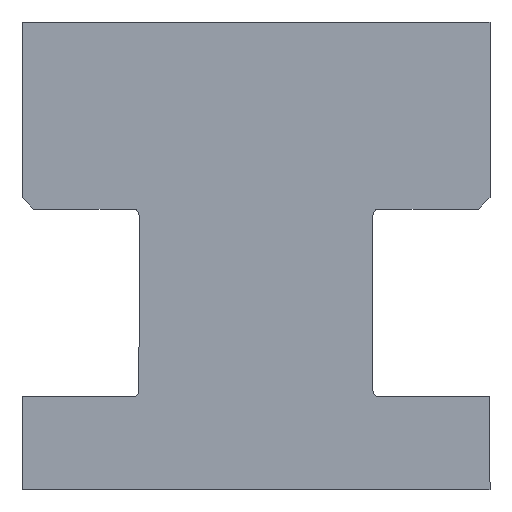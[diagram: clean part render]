
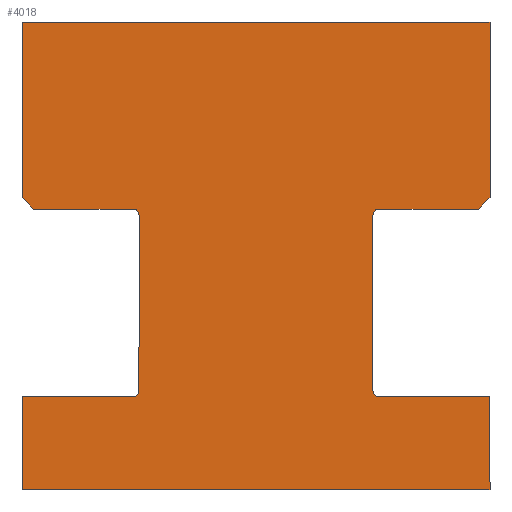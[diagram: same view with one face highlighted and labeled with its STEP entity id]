
A CAD part, front view. The second image highlights one B-rep face of the part: STEP entity #4018.
In plain terms, the highlighted planar face has unit normal (0, -1, 0).
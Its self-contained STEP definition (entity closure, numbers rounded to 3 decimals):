
#141 = ORIENTED_EDGE ( 'NONE', *, *, #4727, .T. ) ;
#193 = VERTEX_POINT ( 'NONE', #1388 ) ;
#210 = EDGE_CURVE ( 'NONE', #5938, #4809, #1956, .T. ) ;
#221 = DIRECTION ( 'NONE',  ( 0., 0., -1. ) ) ;
#238 = CARTESIAN_POINT ( 'NONE',  ( 10., -50., 20. ) ) ;
#277 = CARTESIAN_POINT ( 'NONE',  ( -9.5, -50., 12. ) ) ;
#431 = DIRECTION ( 'NONE',  ( 0.707, 0., -0.707 ) ) ;
#462 = EDGE_LOOP ( 'NONE', ( #5608, #7422, #1519, #1436, #141, #4499, #4317, #1874, #1297, #1888, #3387, #3003, #1084, #3736, #3169, #4102, #4210, #5923 ) ) ;
#531 = EDGE_CURVE ( 'NONE', #4574, #2586, #2336, .T. ) ;
#597 = DIRECTION ( 'NONE',  ( 1., 0., 0. ) ) ;
#672 = LINE ( 'NONE', #5896, #895 ) ;
#683 = EDGE_CURVE ( 'NONE', #3060, #1354, #4502, .T. ) ;
#699 = DIRECTION ( 'NONE',  ( 0., 0., 1. ) ) ;
#765 = CIRCLE ( 'NONE', #3121, 0.25 ) ;
#845 = PLANE ( 'NONE',  #7132 ) ;
#895 = VECTOR ( 'NONE', #597, 1000. ) ;
#1043 = CARTESIAN_POINT ( 'NONE',  ( -10., -50., 4. ) ) ;
#1084 = ORIENTED_EDGE ( 'NONE', *, *, #1252, .T. ) ;
#1130 = CARTESIAN_POINT ( 'NONE',  ( -5.25, -50., 11.75 ) ) ;
#1238 = VECTOR ( 'NONE', #1919, 1000. ) ;
#1252 = EDGE_CURVE ( 'NONE', #6293, #4286, #4004, .T. ) ;
#1272 = AXIS2_PLACEMENT_3D ( 'NONE', #1130, #1819, #7067 ) ;
#1297 = ORIENTED_EDGE ( 'NONE', *, *, #5521, .T. ) ;
#1320 = LINE ( 'NONE', #3659, #4335 ) ;
#1354 = VERTEX_POINT ( 'NONE', #4656 ) ;
#1388 = CARTESIAN_POINT ( 'NONE',  ( 5.25, -50., 12. ) ) ;
#1396 = VECTOR ( 'NONE', #221, 1000. ) ;
#1406 = CARTESIAN_POINT ( 'NONE',  ( 10., -50., 4. ) ) ;
#1436 = ORIENTED_EDGE ( 'NONE', *, *, #210, .F. ) ;
#1494 = CARTESIAN_POINT ( 'NONE',  ( -10., -50., 20. ) ) ;
#1519 = ORIENTED_EDGE ( 'NONE', *, *, #6709, .F. ) ;
#1532 = CARTESIAN_POINT ( 'NONE',  ( 10., -50., 12.5 ) ) ;
#1559 = VERTEX_POINT ( 'NONE', #6520 ) ;
#1570 = DIRECTION ( 'NONE',  ( 0.707, 0., 0.707 ) ) ;
#1819 = DIRECTION ( 'NONE',  ( 0., 1., 0. ) ) ;
#1853 = VECTOR ( 'NONE', #2199, 1000. ) ;
#1872 = VECTOR ( 'NONE', #2776, 1000. ) ;
#1874 = ORIENTED_EDGE ( 'NONE', *, *, #6411, .T. ) ;
#1888 = ORIENTED_EDGE ( 'NONE', *, *, #531, .T. ) ;
#1919 = DIRECTION ( 'NONE',  ( 1., 0., 0. ) ) ;
#1956 = LINE ( 'NONE', #1494, #1238 ) ;
#1968 = VERTEX_POINT ( 'NONE', #4089 ) ;
#2199 = DIRECTION ( 'NONE',  ( 0., 0., 1. ) ) ;
#2209 = CARTESIAN_POINT ( 'NONE',  ( -10., -50., 0. ) ) ;
#2253 = LINE ( 'NONE', #1532, #6391 ) ;
#2335 = EDGE_CURVE ( 'NONE', #193, #1559, #5406, .T. ) ;
#2336 = CIRCLE ( 'NONE', #6627, 0.25 ) ;
#2429 = EDGE_CURVE ( 'NONE', #2586, #7275, #5034, .T. ) ;
#2551 = DIRECTION ( 'NONE',  ( 0., 0., -1. ) ) ;
#2586 = VERTEX_POINT ( 'NONE', #3761 ) ;
#2623 = EDGE_CURVE ( 'NONE', #6632, #3060, #7256, .T. ) ;
#2684 = CARTESIAN_POINT ( 'NONE',  ( 5.25, -50., 4.25 ) ) ;
#2695 = VERTEX_POINT ( 'NONE', #5817 ) ;
#2776 = DIRECTION ( 'NONE',  ( 0., 0., -1. ) ) ;
#2956 = LINE ( 'NONE', #5224, #6028 ) ;
#2962 = LINE ( 'NONE', #7603, #6273 ) ;
#2980 = VECTOR ( 'NONE', #431, 1000. ) ;
#3003 = ORIENTED_EDGE ( 'NONE', *, *, #6505, .T. ) ;
#3060 = VERTEX_POINT ( 'NONE', #3163 ) ;
#3089 = DIRECTION ( 'NONE',  ( -1., 0., 0. ) ) ;
#3121 = AXIS2_PLACEMENT_3D ( 'NONE', #6610, #5416, #2551 ) ;
#3143 = CARTESIAN_POINT ( 'NONE',  ( -5.25, -50., 4.25 ) ) ;
#3160 = DIRECTION ( 'NONE',  ( 1., 0., 0. ) ) ;
#3163 = CARTESIAN_POINT ( 'NONE',  ( 5., -50., 4.25 ) ) ;
#3169 = ORIENTED_EDGE ( 'NONE', *, *, #6485, .T. ) ;
#3198 = DIRECTION ( 'NONE',  ( 0., 1., 0. ) ) ;
#3354 = VERTEX_POINT ( 'NONE', #3950 ) ;
#3387 = ORIENTED_EDGE ( 'NONE', *, *, #2429, .T. ) ;
#3659 = CARTESIAN_POINT ( 'NONE',  ( 10., -50., 4. ) ) ;
#3736 = ORIENTED_EDGE ( 'NONE', *, *, #5199, .F. ) ;
#3761 = CARTESIAN_POINT ( 'NONE',  ( -5.25, -50., 4. ) ) ;
#3767 = CARTESIAN_POINT ( 'NONE',  ( -10., -50., 20. ) ) ;
#3791 = CARTESIAN_POINT ( 'NONE',  ( 10., -50., 0. ) ) ;
#3950 = CARTESIAN_POINT ( 'NONE',  ( -5.25, -50., 12. ) ) ;
#4004 = LINE ( 'NONE', #7466, #6989 ) ;
#4018 = ADVANCED_FACE ( 'NONE', ( #7215 ), #845, .F. ) ;
#4089 = CARTESIAN_POINT ( 'NONE',  ( -5., -50., 11.75 ) ) ;
#4102 = ORIENTED_EDGE ( 'NONE', *, *, #2623, .T. ) ;
#4204 = DIRECTION ( 'NONE',  ( 0., 1., 0. ) ) ;
#4210 = ORIENTED_EDGE ( 'NONE', *, *, #683, .T. ) ;
#4286 = VERTEX_POINT ( 'NONE', #3791 ) ;
#4315 = AXIS2_PLACEMENT_3D ( 'NONE', #2684, #5064, #4449 ) ;
#4317 = ORIENTED_EDGE ( 'NONE', *, *, #4726, .T. ) ;
#4319 = EDGE_CURVE ( 'NONE', #1559, #2695, #2253, .T. ) ;
#4335 = VECTOR ( 'NONE', #3089, 1000. ) ;
#4434 = CARTESIAN_POINT ( 'NONE',  ( -10., -50., 20. ) ) ;
#4449 = DIRECTION ( 'NONE',  ( 0., 0., 1. ) ) ;
#4498 = LINE ( 'NONE', #6836, #1872 ) ;
#4499 = ORIENTED_EDGE ( 'NONE', *, *, #6846, .T. ) ;
#4502 = LINE ( 'NONE', #6874, #1853 ) ;
#4528 = CARTESIAN_POINT ( 'NONE',  ( 5.25, -50., 4. ) ) ;
#4572 = DIRECTION ( 'NONE',  ( -1., 0., 0. ) ) ;
#4574 = VERTEX_POINT ( 'NONE', #5800 ) ;
#4656 = CARTESIAN_POINT ( 'NONE',  ( 5., -50., 11.75 ) ) ;
#4726 = EDGE_CURVE ( 'NONE', #7365, #3354, #672, .T. ) ;
#4727 = EDGE_CURVE ( 'NONE', #5938, #5864, #2956, .T. ) ;
#4809 = VERTEX_POINT ( 'NONE', #6399 ) ;
#4887 = CARTESIAN_POINT ( 'NONE',  ( -10., -50., 20. ) ) ;
#4921 = CARTESIAN_POINT ( 'NONE',  ( 10., -50., 12. ) ) ;
#5034 = LINE ( 'NONE', #1043, #7122 ) ;
#5064 = DIRECTION ( 'NONE',  ( 0., 1., 0. ) ) ;
#5199 = EDGE_CURVE ( 'NONE', #6532, #4286, #2962, .T. ) ;
#5224 = CARTESIAN_POINT ( 'NONE',  ( -10., -50., 20. ) ) ;
#5406 = LINE ( 'NONE', #4921, #7616 ) ;
#5416 = DIRECTION ( 'NONE',  ( 0., 1., 0. ) ) ;
#5521 = EDGE_CURVE ( 'NONE', #1968, #4574, #4498, .T. ) ;
#5557 = VECTOR ( 'NONE', #5962, 1000. ) ;
#5604 = DIRECTION ( 'NONE',  ( -1., 0., 0. ) ) ;
#5608 = ORIENTED_EDGE ( 'NONE', *, *, #2335, .T. ) ;
#5626 = CARTESIAN_POINT ( 'NONE',  ( -10., -50., 4. ) ) ;
#5681 = CIRCLE ( 'NONE', #1272, 0.25 ) ;
#5742 = CARTESIAN_POINT ( 'NONE',  ( -9.5, -50., 12. ) ) ;
#5800 = CARTESIAN_POINT ( 'NONE',  ( -5., -50., 4.25 ) ) ;
#5817 = CARTESIAN_POINT ( 'NONE',  ( 10., -50., 12.5 ) ) ;
#5828 = DIRECTION ( 'NONE',  ( 0., 0., -1. ) ) ;
#5863 = DIRECTION ( 'NONE',  ( 0., 0., -1. ) ) ;
#5864 = VERTEX_POINT ( 'NONE', #6662 ) ;
#5896 = CARTESIAN_POINT ( 'NONE',  ( -10., -50., 12. ) ) ;
#5923 = ORIENTED_EDGE ( 'NONE', *, *, #6451, .T. ) ;
#5938 = VERTEX_POINT ( 'NONE', #4434 ) ;
#5962 = DIRECTION ( 'NONE',  ( 0., 0., -1. ) ) ;
#6023 = LINE ( 'NONE', #4887, #1396 ) ;
#6028 = VECTOR ( 'NONE', #5828, 1000. ) ;
#6273 = VECTOR ( 'NONE', #5863, 1000. ) ;
#6293 = VERTEX_POINT ( 'NONE', #2209 ) ;
#6336 = DIRECTION ( 'NONE',  ( 1., 0., 0. ) ) ;
#6391 = VECTOR ( 'NONE', #1570, 1000. ) ;
#6399 = CARTESIAN_POINT ( 'NONE',  ( 10., -50., 20. ) ) ;
#6411 = EDGE_CURVE ( 'NONE', #3354, #1968, #5681, .T. ) ;
#6451 = EDGE_CURVE ( 'NONE', #1354, #193, #765, .T. ) ;
#6485 = EDGE_CURVE ( 'NONE', #6532, #6632, #1320, .T. ) ;
#6505 = EDGE_CURVE ( 'NONE', #7275, #6293, #6023, .T. ) ;
#6520 = CARTESIAN_POINT ( 'NONE',  ( 9.5, -50., 12. ) ) ;
#6532 = VERTEX_POINT ( 'NONE', #1406 ) ;
#6610 = CARTESIAN_POINT ( 'NONE',  ( 5.25, -50., 11.75 ) ) ;
#6627 = AXIS2_PLACEMENT_3D ( 'NONE', #3143, #4204, #699 ) ;
#6632 = VERTEX_POINT ( 'NONE', #4528 ) ;
#6662 = CARTESIAN_POINT ( 'NONE',  ( -10., -50., 12.5 ) ) ;
#6709 = EDGE_CURVE ( 'NONE', #4809, #2695, #7205, .T. ) ;
#6836 = CARTESIAN_POINT ( 'NONE',  ( -5., -50., 4.25 ) ) ;
#6846 = EDGE_CURVE ( 'NONE', #5864, #7365, #7472, .T. ) ;
#6874 = CARTESIAN_POINT ( 'NONE',  ( 5., -50., 4.25 ) ) ;
#6989 = VECTOR ( 'NONE', #6336, 1000. ) ;
#7067 = DIRECTION ( 'NONE',  ( 0., 0., -1. ) ) ;
#7122 = VECTOR ( 'NONE', #4572, 1000. ) ;
#7132 = AXIS2_PLACEMENT_3D ( 'NONE', #3767, #3198, #5604 ) ;
#7205 = LINE ( 'NONE', #238, #5557 ) ;
#7215 = FACE_OUTER_BOUND ( 'NONE', #462, .T. ) ;
#7256 = CIRCLE ( 'NONE', #4315, 0.25 ) ;
#7275 = VERTEX_POINT ( 'NONE', #5626 ) ;
#7365 = VERTEX_POINT ( 'NONE', #5742 ) ;
#7422 = ORIENTED_EDGE ( 'NONE', *, *, #4319, .T. ) ;
#7466 = CARTESIAN_POINT ( 'NONE',  ( -10., -50., 0. ) ) ;
#7472 = LINE ( 'NONE', #277, #2980 ) ;
#7603 = CARTESIAN_POINT ( 'NONE',  ( 10., -50., 20. ) ) ;
#7616 = VECTOR ( 'NONE', #3160, 1000. ) ;
